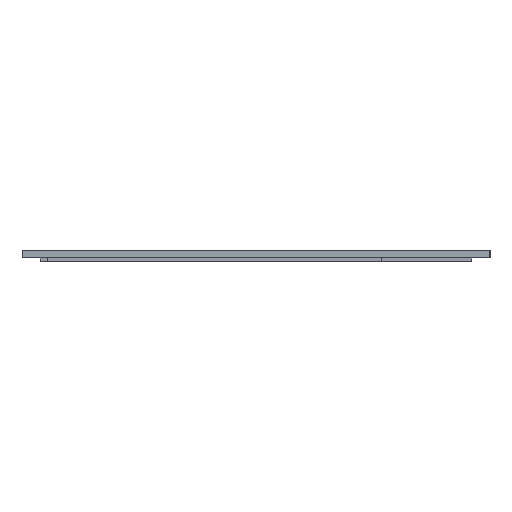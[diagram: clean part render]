
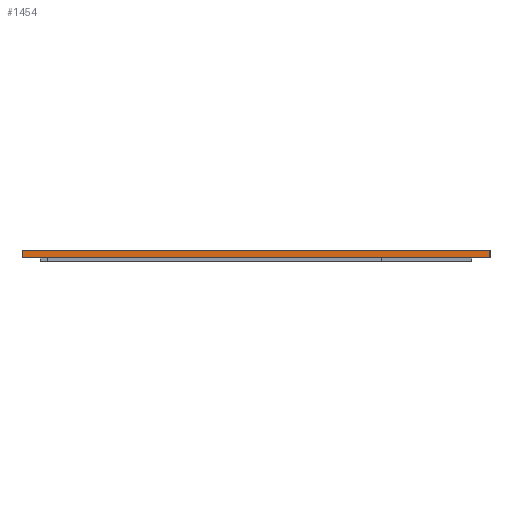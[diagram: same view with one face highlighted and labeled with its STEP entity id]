
A CAD part, left-side view. The second image highlights one B-rep face of the part: STEP entity #1454.
In plain terms, the highlighted planar face has unit normal (-1, 0, 0).
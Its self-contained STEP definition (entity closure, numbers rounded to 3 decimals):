
#100 = VERTEX_POINT ( 'NONE', #401 ) ;
#296 = VECTOR ( 'NONE', #3919, 1000. ) ;
#335 = DIRECTION ( 'NONE',  ( 1., 0., 0. ) ) ;
#380 = VERTEX_POINT ( 'NONE', #4948 ) ;
#401 = CARTESIAN_POINT ( 'NONE',  ( -158.5, 64.5, 3. ) ) ;
#527 = ORIENTED_EDGE ( 'NONE', *, *, #4910, .F. ) ;
#720 = PLANE ( 'NONE',  #3108 ) ;
#742 = ORIENTED_EDGE ( 'NONE', *, *, #4140, .T. ) ;
#763 = LINE ( 'NONE', #1999, #1684 ) ;
#818 = DIRECTION ( 'NONE',  ( 0., -1., 0. ) ) ;
#1096 = CARTESIAN_POINT ( 'NONE',  ( -158.5, -64.5, 3. ) ) ;
#1101 = CARTESIAN_POINT ( 'NONE',  ( -158.5, 64.5, 3. ) ) ;
#1413 = VECTOR ( 'NONE', #1451, 1000. ) ;
#1451 = DIRECTION ( 'NONE',  ( 0., 0., -1. ) ) ;
#1454 = ADVANCED_FACE ( 'NONE', ( #4714 ), #720, .F. ) ;
#1513 = CARTESIAN_POINT ( 'NONE',  ( -158.5, 64.5, 1. ) ) ;
#1516 = EDGE_CURVE ( 'NONE', #380, #4213, #2447, .T. ) ;
#1626 = DIRECTION ( 'NONE',  ( 0., 1., 0. ) ) ;
#1661 = EDGE_LOOP ( 'NONE', ( #527, #4300, #3389, #742 ) ) ;
#1684 = VECTOR ( 'NONE', #818, 1000. ) ;
#1865 = LINE ( 'NONE', #4299, #3953 ) ;
#1946 = EDGE_CURVE ( 'NONE', #100, #380, #763, .T. ) ;
#1999 = CARTESIAN_POINT ( 'NONE',  ( -158.5, 64.5, 3. ) ) ;
#2447 = LINE ( 'NONE', #1096, #1413 ) ;
#3108 = AXIS2_PLACEMENT_3D ( 'NONE', #1101, #335, #4189 ) ;
#3165 = CARTESIAN_POINT ( 'NONE',  ( -158.5, 64.5, 3. ) ) ;
#3389 = ORIENTED_EDGE ( 'NONE', *, *, #1946, .F. ) ;
#3867 = CARTESIAN_POINT ( 'NONE',  ( -158.5, -64.5, 1. ) ) ;
#3919 = DIRECTION ( 'NONE',  ( 0., 0., -1. ) ) ;
#3953 = VECTOR ( 'NONE', #1626, 1000. ) ;
#4013 = LINE ( 'NONE', #3165, #296 ) ;
#4140 = EDGE_CURVE ( 'NONE', #100, #4776, #4013, .T. ) ;
#4189 = DIRECTION ( 'NONE',  ( 0., 0., -1. ) ) ;
#4213 = VERTEX_POINT ( 'NONE', #3867 ) ;
#4299 = CARTESIAN_POINT ( 'NONE',  ( -158.5, -64.5, 1. ) ) ;
#4300 = ORIENTED_EDGE ( 'NONE', *, *, #1516, .F. ) ;
#4714 = FACE_OUTER_BOUND ( 'NONE', #1661, .T. ) ;
#4776 = VERTEX_POINT ( 'NONE', #1513 ) ;
#4910 = EDGE_CURVE ( 'NONE', #4213, #4776, #1865, .T. ) ;
#4948 = CARTESIAN_POINT ( 'NONE',  ( -158.5, -64.5, 3. ) ) ;
